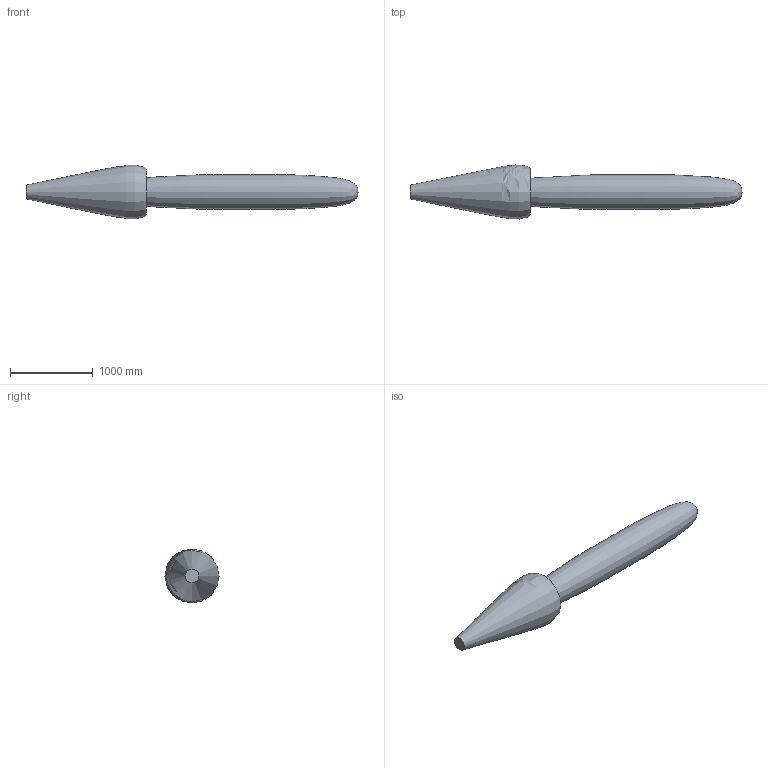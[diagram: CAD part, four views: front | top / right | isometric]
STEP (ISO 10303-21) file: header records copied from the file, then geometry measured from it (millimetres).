
FILE_DESCRIPTION((''),'2;1');
FILE_NAME('C:\Dokumente und Einstellungen\Kramp\Eigene Dateien\Microsonic Nacharbeit 2\restliche Änderungen\STP\Schallfeld Betriebstastw 3400mm Rohr.stp','2005-08-11T08:22:46',('Kramp'),(''),'Autodesk Inventor 7','Autodesk Inventor 7','');
FILE_SCHEMA(('AUTOMOTIVE_DESIGN { 1 0 10303 214 1 1 1 1 }'));
Length unit declared in the file: millimetre
Products named in the file (1): Schallfeld Betriebstastw 3400mm Rohr
Bounding box: 4002 x 651.14 x 650.17 mm (x, y, z)
Volume: 551946584.4 mm3; surface area: 5759673.1 mm2
Topology: 1 solids, 1 shells, 2 faces, 3 edges, 2 vertices
Faces by surface type: bspline 1, plane 1
Entity records: 358 total; most frequent: CARTESIAN_POINT 305, DIRECTION 6, ORIENTED_EDGE 4, AXIS2_PLACEMENT_3D 3, VERTEX_POINT 2, EDGE_CURVE 2, EDGE_LOOP 2, FACE_OUTER_BOUND 2
